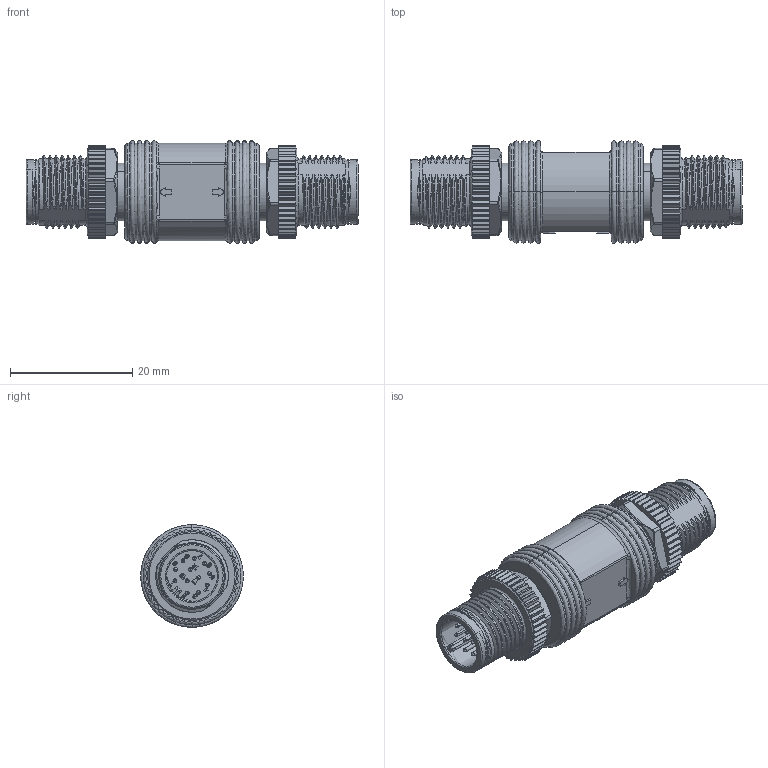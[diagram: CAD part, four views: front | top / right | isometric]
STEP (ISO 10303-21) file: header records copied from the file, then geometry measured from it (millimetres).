
FILE_DESCRIPTION (( 'STEP AP214' ), '1' );
FILE_NAME ('CPMS-JNR-NET-AA.STEP', '2024-04-03T18:38:23', ( '' ), ( '' ), 'SwSTEP 2.0', 'SolidWorks 2020', '' );
FILE_SCHEMA (( 'AUTOMOTIVE_DESIGN' ));
Length unit declared in the file: millimetre
Products named in the file (1): CPMS-JNR-NET-AA
Bounding box: 54.4 x 16.8 x 16.8 mm (x, y, z)
Volume: 7052.5 mm3; surface area: 6047.3 mm2
Topology: 1 solids, 1 shells, 1477 faces, 3919 edges, 2466 vertices
Faces by surface type: bspline 1477
Entity records: 79559 total; most frequent: CARTESIAN_POINT 48039, ORIENTED_EDGE 7742, EDGE_CURVE 3871, B_SPLINE_CURVE_WITH_KNOTS 3180, VERTEX_POINT 2466, EDGE_LOOP 1563, ADVANCED_FACE 1477, FACE_OUTER_BOUND 1477
